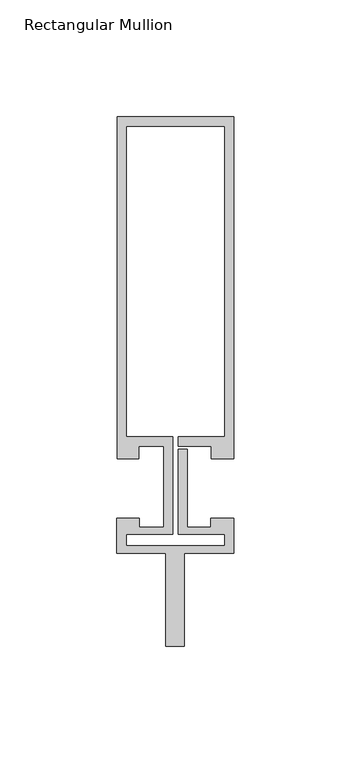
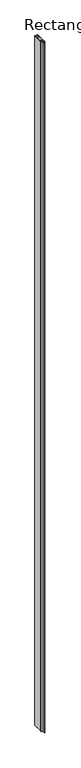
"""IFC4 building model written with IfcOpenShell, lengths in millimetres: member geometry, Rectangular Mullion : Reynaers_CW-50_Transom-Transom_146.5mm_Facecap-06B."""

from ifc_helpers import new_model, si_unit, frame, origin, place, context, project, spatial, polyline, outline, extrude, source, transform, mapped, element, save


def rectangular_mullion_cb093232(model_context):
    return source(origin(), model_context, "Body", "SweptSolid", [
        extrude(outline(polyline([(25.1995941, 12.7331291), (15.499, 12.7331291), (15.499, 18.1331291), (1.2995941, 18.1331291), (1.2995941, 22.1331291), (21.1995941, 22.1331291), (21.1995941, 155.2331291), (-20.8004059, 155.2331291), (-20.8004059, 22.1331291), (-0.9004059, 22.1331291), (-0.9004059, -19.7331291), (-20.994845, -19.7331291), (-20.994845, -24.6522629), (21.1995941, -24.6522629), (21.1995941, -19.7331291), (1.2995941, -19.7331291), (1.2995941, 16.7615089), (5.2995941, 16.7615089), (5.2995941, -16.7331291), (15.2996495, -16.7331291), (15.2996495, -12.7331291), (25.1995941, -12.7331291), (25.1995941, -27.7331291), (4.004855, -27.7331291), (4.004855, -67.7331291), (-3.995145, -67.7331291), (-3.995145, -27.7331291), (-24.994845, -27.7331291), (-24.994845, -12.7331291), (-15.2996495, -12.7331291), (-15.2996495, -16.7331291), (-4.9004059, -16.7331291), (-4.9004059, 18.1331291), (-15.499, 18.1331291), (-15.499, 12.7331291), (-24.8004059, 12.7331291), (-24.8004059, 159.2331291), (25.1995941, 159.2331291), (25.1995941, 12.7331291)])), frame((0.0, 0.0, -12000.0), z_axis=(0.0, 0.0, 1.0), x_axis=(1.0, 0.0, 0.0)), (0.0, 0.0, 1.0), 12000.0),
    ])


if __name__ == "__main__":
    model = new_model("IFC4")
    model_context = context("Model", 3, world=origin())
    ifc_project = project(units=[si_unit("LENGTHUNIT", "METRE", prefix="MILLI")], contexts=[model_context])
    site = spatial("IfcSite", under=ifc_project)
    building = spatial("IfcBuilding", under=site)
    placement = place(None, origin())
    rectangular_mullion_shape = rectangular_mullion_cb093232(model_context)
    element("IfcMember", 1, ObjectType="Rectangular Mullion : Reynaers_CW-50_Transom-Transom_146.5mm_Facecap-06B", at=placement, inside=building, context=model_context, shape_type="MappedRepresentation", body=[
        mapped(rectangular_mullion_shape, transform((0.0, 0.0, 0.0), x_axis=(1.0, 0.0, 0.0), y_axis=(0.0, 1.0, 0.0), z_axis=(0.0, 0.0, 1.0))),
    ])
    save(model, "model.ifc")
